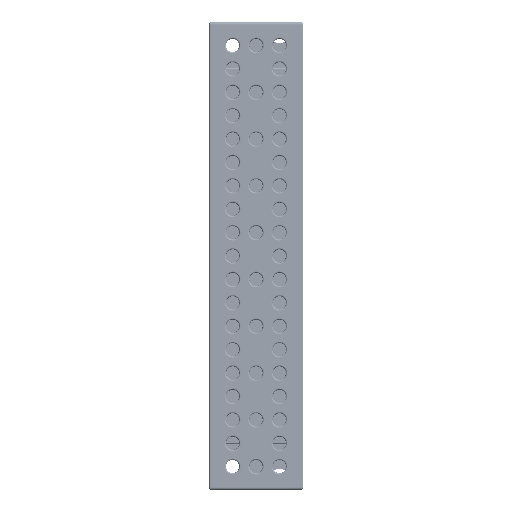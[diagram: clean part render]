
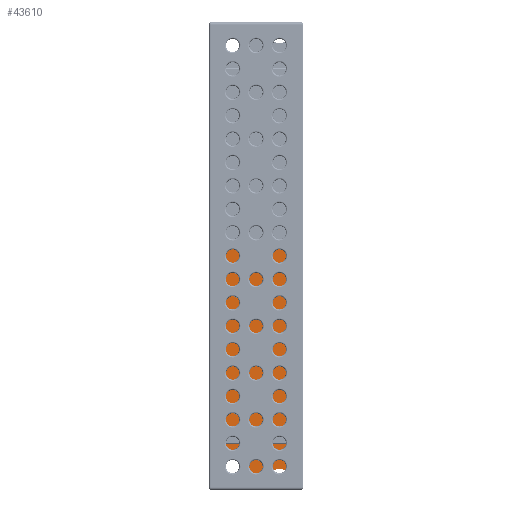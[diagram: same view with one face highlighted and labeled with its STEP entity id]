
A CAD part, left-side view. The second image highlights one B-rep face of the part: STEP entity #43610.
In plain terms, the highlighted planar face has unit normal (-1, 0, 0).
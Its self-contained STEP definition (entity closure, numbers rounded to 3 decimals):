
#243 = VERTEX_POINT ( 'NONE', #32936 ) ;
#4112 = CARTESIAN_POINT ( 'NONE',  ( -479., -70., -450. ) ) ;
#6781 = CARTESIAN_POINT ( 'NONE',  ( -479., -70., -450. ) ) ;
#7532 = AXIS2_PLACEMENT_3D ( 'NONE', #26470, #94438, #93175 ) ;
#8755 = DIRECTION ( 'NONE',  ( -1., 0., 0. ) ) ;
#8841 = CARTESIAN_POINT ( 'NONE',  ( -479., -150., -455. ) ) ;
#9274 = LINE ( 'NONE', #114411, #119552 ) ;
#10817 = CIRCLE ( 'NONE', #93202, 20. ) ;
#13237 = VECTOR ( 'NONE', #103388, 1000. ) ;
#13706 = DIRECTION ( 'NONE',  ( 1., 0., 0. ) ) ;
#14385 = VERTEX_POINT ( 'NONE', #6781 ) ;
#17131 = CARTESIAN_POINT ( 'NONE',  ( -479., -150., 21. ) ) ;
#17221 = VERTEX_POINT ( 'NONE', #114577 ) ;
#17676 = VERTEX_POINT ( 'NONE', #110426 ) ;
#17688 = ORIENTED_EDGE ( 'NONE', *, *, #91103, .F. ) ;
#19054 = CARTESIAN_POINT ( 'NONE',  ( -479., -195., 475. ) ) ;
#19684 = LINE ( 'NONE', #19054, #13237 ) ;
#20471 = EDGE_CURVE ( 'NONE', #17676, #243, #92503, .T. ) ;
#20610 = CIRCLE ( 'NONE', #107024, 20. ) ;
#20692 = VERTEX_POINT ( 'NONE', #78589 ) ;
#21923 = DIRECTION ( 'NONE',  ( 0., 0., -1. ) ) ;
#24397 = PLANE ( 'NONE',  #78391 ) ;
#24980 = EDGE_CURVE ( 'NONE', #60416, #29178, #99986, .T. ) ;
#25339 = LINE ( 'NONE', #17131, #118053 ) ;
#26470 = CARTESIAN_POINT ( 'NONE',  ( -479., -150., -475. ) ) ;
#27317 = DIRECTION ( 'NONE',  ( 0., 1., 0. ) ) ;
#28197 = DIRECTION ( 'NONE',  ( 0., 1., 0. ) ) ;
#28200 = EDGE_CURVE ( 'NONE', #63244, #243, #25339, .T. ) ;
#29178 = VERTEX_POINT ( 'NONE', #82200 ) ;
#29263 = ORIENTED_EDGE ( 'NONE', *, *, #30919, .F. ) ;
#30919 = EDGE_CURVE ( 'NONE', #17221, #60416, #20610, .T. ) ;
#32583 = CARTESIAN_POINT ( 'NONE',  ( -479., -150., 475. ) ) ;
#32936 = CARTESIAN_POINT ( 'NONE',  ( -479., -25., 21. ) ) ;
#33042 = LINE ( 'NONE', #4112, #76802 ) ;
#36007 = VERTEX_POINT ( 'NONE', #97457 ) ;
#41141 = VECTOR ( 'NONE', #108049, 1000. ) ;
#43610 = ADVANCED_FACE ( 'NONE', ( #81650 ), #24397, .F. ) ;
#44283 = EDGE_CURVE ( 'NONE', #20692, #17221, #75177, .T. ) ;
#47555 = EDGE_CURVE ( 'NONE', #29178, #36007, #52668, .T. ) ;
#50387 = ORIENTED_EDGE ( 'NONE', *, *, #24980, .F. ) ;
#51413 = VERTEX_POINT ( 'NONE', #86021 ) ;
#51775 = ORIENTED_EDGE ( 'NONE', *, *, #117030, .F. ) ;
#52057 = CARTESIAN_POINT ( 'NONE',  ( -479., -70., -475. ) ) ;
#52668 = LINE ( 'NONE', #52057, #41141 ) ;
#53185 = CARTESIAN_POINT ( 'NONE',  ( -479., -170., -475. ) ) ;
#56039 = EDGE_CURVE ( 'NONE', #63244, #20692, #19684, .T. ) ;
#60416 = VERTEX_POINT ( 'NONE', #8841 ) ;
#60892 = EDGE_LOOP ( 'NONE', ( #87447, #91976, #61495, #17688, #109017, #51775, #85274, #50387, #29263, #114699 ) ) ;
#61495 = ORIENTED_EDGE ( 'NONE', *, *, #20471, .F. ) ;
#62360 = VECTOR ( 'NONE', #103150, 1000. ) ;
#63244 = VERTEX_POINT ( 'NONE', #108371 ) ;
#69040 = EDGE_CURVE ( 'NONE', #14385, #51413, #10817, .T. ) ;
#75085 = DIRECTION ( 'NONE',  ( 0., 0., 1. ) ) ;
#75177 = LINE ( 'NONE', #53185, #118547 ) ;
#76352 = DIRECTION ( 'NONE',  ( -1., 0., 0. ) ) ;
#76802 = VECTOR ( 'NONE', #92193, 1000. ) ;
#78391 = AXIS2_PLACEMENT_3D ( 'NONE', #32583, #13706, #21923 ) ;
#78589 = CARTESIAN_POINT ( 'NONE',  ( -479., -195., -475. ) ) ;
#81650 = FACE_OUTER_BOUND ( 'NONE', #60892, .T. ) ;
#82200 = CARTESIAN_POINT ( 'NONE',  ( -479., -130., -475. ) ) ;
#83057 = CARTESIAN_POINT ( 'NONE',  ( -479., -50., -450. ) ) ;
#85274 = ORIENTED_EDGE ( 'NONE', *, *, #47555, .F. ) ;
#86021 = CARTESIAN_POINT ( 'NONE',  ( -479., -50., -430. ) ) ;
#87447 = ORIENTED_EDGE ( 'NONE', *, *, #56039, .F. ) ;
#91103 = EDGE_CURVE ( 'NONE', #51413, #17676, #9274, .T. ) ;
#91976 = ORIENTED_EDGE ( 'NONE', *, *, #28200, .T. ) ;
#92193 = DIRECTION ( 'NONE',  ( 0., 0., 1. ) ) ;
#92503 = LINE ( 'NONE', #112614, #62360 ) ;
#93175 = DIRECTION ( 'NONE',  ( 0., 0., 1. ) ) ;
#93202 = AXIS2_PLACEMENT_3D ( 'NONE', #83057, #8755, #104437 ) ;
#94438 = DIRECTION ( 'NONE',  ( -1., 0., 0. ) ) ;
#94579 = CARTESIAN_POINT ( 'NONE',  ( -479., -150., -475. ) ) ;
#97457 = CARTESIAN_POINT ( 'NONE',  ( -479., -70., -475. ) ) ;
#99986 = CIRCLE ( 'NONE', #7532, 20. ) ;
#103150 = DIRECTION ( 'NONE',  ( 0., 0., 1. ) ) ;
#103388 = DIRECTION ( 'NONE',  ( 0., 0., -1. ) ) ;
#104437 = DIRECTION ( 'NONE',  ( 0., 0., 1. ) ) ;
#107024 = AXIS2_PLACEMENT_3D ( 'NONE', #94579, #76352, #75085 ) ;
#108049 = DIRECTION ( 'NONE',  ( 0., 1., 0. ) ) ;
#108371 = CARTESIAN_POINT ( 'NONE',  ( -479., -195., 21. ) ) ;
#109017 = ORIENTED_EDGE ( 'NONE', *, *, #69040, .F. ) ;
#110426 = CARTESIAN_POINT ( 'NONE',  ( -479., -25., -430. ) ) ;
#112614 = CARTESIAN_POINT ( 'NONE',  ( -479., -25., 430. ) ) ;
#114411 = CARTESIAN_POINT ( 'NONE',  ( -479., -50., -430. ) ) ;
#114577 = CARTESIAN_POINT ( 'NONE',  ( -479., -170., -475. ) ) ;
#114699 = ORIENTED_EDGE ( 'NONE', *, *, #44283, .F. ) ;
#117030 = EDGE_CURVE ( 'NONE', #36007, #14385, #33042, .T. ) ;
#118053 = VECTOR ( 'NONE', #122224, 1000. ) ;
#118547 = VECTOR ( 'NONE', #27317, 1000. ) ;
#119552 = VECTOR ( 'NONE', #28197, 1000. ) ;
#122224 = DIRECTION ( 'NONE',  ( 0., 1., 0. ) ) ;
